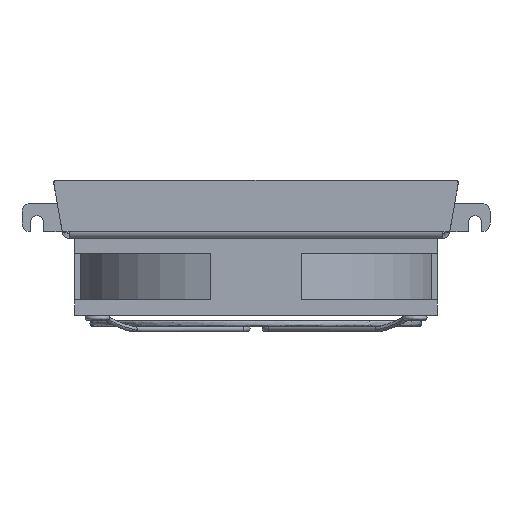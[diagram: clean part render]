
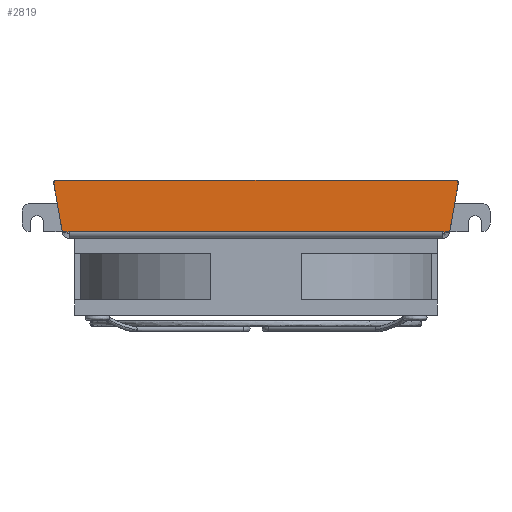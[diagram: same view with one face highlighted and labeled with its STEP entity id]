
A CAD part, front view. The second image highlights one B-rep face of the part: STEP entity #2819.
In plain terms, the highlighted planar face has unit normal (0, -1, 0).
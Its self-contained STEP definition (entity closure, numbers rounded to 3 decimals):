
#11 = CARTESIAN_POINT ( 'NONE',  ( -61.871, -134., 0.75 ) ) ;
#12 = DIRECTION ( 'NONE',  ( -1., 0., 0. ) ) ;
#213 = CARTESIAN_POINT ( 'NONE',  ( -65.957, -134., 16.727 ) ) ;
#217 = DIRECTION ( 'NONE',  ( 0., 0., 1. ) ) ;
#310 = DIRECTION ( 'NONE',  ( 0., -1., 0. ) ) ;
#370 = DIRECTION ( 'NONE',  ( 0.174, 0., 0.985 ) ) ;
#417 = CARTESIAN_POINT ( 'NONE',  ( 61.871, -134., 0.75 ) ) ;
#419 = DIRECTION ( 'NONE',  ( 1., 0., 0. ) ) ;
#488 = CARTESIAN_POINT ( 'NONE',  ( 64.155, -134., 0.75 ) ) ;
#1529 = CARTESIAN_POINT ( 'NONE',  ( 66.942, -134., 16.553 ) ) ;
#1652 = CARTESIAN_POINT ( 'NONE',  ( 64.155, -134., 0.75 ) ) ;
#1719 = DIRECTION ( 'NONE',  ( 0., 0., 1. ) ) ;
#1730 = CARTESIAN_POINT ( 'NONE',  ( -66.942, -134., 16.553 ) ) ;
#1832 = VERTEX_POINT ( 'NONE', #1652 ) ;
#2137 = VERTEX_POINT ( 'NONE', #1529 ) ;
#2186 = CARTESIAN_POINT ( 'NONE',  ( 65.957, -134., 17.727 ) ) ;
#2251 = CARTESIAN_POINT ( 'NONE',  ( -61.871, -134., 0.75 ) ) ;
#2316 = VERTEX_POINT ( 'NONE', #1730 ) ;
#2405 = VERTEX_POINT ( 'NONE', #2614 ) ;
#2435 = CARTESIAN_POINT ( 'NONE',  ( 61.871, -134., 0. ) ) ;
#2530 = PLANE ( 'NONE',  #5775 ) ;
#2565 = VERTEX_POINT ( 'NONE', #2186 ) ;
#2614 = CARTESIAN_POINT ( 'NONE',  ( -64.155, -134., 0.75 ) ) ;
#2686 = DIRECTION ( 'NONE',  ( 0., 1., 0. ) ) ;
#2689 = VERTEX_POINT ( 'NONE', #2251 ) ;
#2819 = ADVANCED_FACE ( 'NONE', ( #6139 ), #2530, .F. ) ;
#3576 = CARTESIAN_POINT ( 'NONE',  ( -65.957, -134., 17.727 ) ) ;
#3717 = CARTESIAN_POINT ( 'NONE',  ( 61.871, -134., 0.75 ) ) ;
#3937 = DIRECTION ( 'NONE',  ( -1., 0., 0. ) ) ;
#3943 = CARTESIAN_POINT ( 'NONE',  ( -61.871, -134., 17.727 ) ) ;
#4283 = DIRECTION ( 'NONE',  ( -1., 0., 0. ) ) ;
#4297 = CARTESIAN_POINT ( 'NONE',  ( -64.155, -134., 0.75 ) ) ;
#4313 = CARTESIAN_POINT ( 'NONE',  ( 61.871, -134., 0.75 ) ) ;
#4322 = DIRECTION ( 'NONE',  ( -0.174, 0., 0.985 ) ) ;
#4698 = VECTOR ( 'NONE', #4322, 1000. ) ;
#4700 = LINE ( 'NONE', #488, #5098 ) ;
#4717 = VECTOR ( 'NONE', #12, 1000. ) ;
#4733 = VECTOR ( 'NONE', #4283, 1000. ) ;
#4737 = LINE ( 'NONE', #4297, #4698 ) ;
#4878 = LINE ( 'NONE', #3943, #4995 ) ;
#4995 = VECTOR ( 'NONE', #3937, 1000. ) ;
#5098 = VECTOR ( 'NONE', #370, 1000. ) ;
#5105 = LINE ( 'NONE', #417, #5107 ) ;
#5106 = CIRCLE ( 'NONE', #8959, 1. ) ;
#5107 = VECTOR ( 'NONE', #419, 1000. ) ;
#5115 = CIRCLE ( 'NONE', #8976, 1. ) ;
#5217 = LINE ( 'NONE', #11, #4717 ) ;
#5223 = LINE ( 'NONE', #4313, #4733 ) ;
#5530 = EDGE_CURVE ( 'NONE', #2689, #2405, #5217, .T. ) ;
#5557 = EDGE_CURVE ( 'NONE', #8356, #1832, #5105, .T. ) ;
#5569 = EDGE_CURVE ( 'NONE', #8344, #2316, #5106, .T. ) ;
#5606 = EDGE_CURVE ( 'NONE', #1832, #2137, #4700, .T. ) ;
#5660 = EDGE_CURVE ( 'NONE', #2137, #2565, #5115, .T. ) ;
#5681 = EDGE_CURVE ( 'NONE', #2565, #8344, #4878, .T. ) ;
#5733 = EDGE_CURVE ( 'NONE', #8356, #2689, #5223, .T. ) ;
#5737 = EDGE_CURVE ( 'NONE', #2405, #2316, #4737, .T. ) ;
#5775 = AXIS2_PLACEMENT_3D ( 'NONE', #2435, #2686, #1719 ) ;
#6139 = FACE_OUTER_BOUND ( 'NONE', #6835, .T. ) ;
#6298 = DIRECTION ( 'NONE',  ( 0., 0., 1. ) ) ;
#6312 = DIRECTION ( 'NONE',  ( 0., -1., 0. ) ) ;
#6319 = CARTESIAN_POINT ( 'NONE',  ( 65.957, -134., 16.727 ) ) ;
#6835 = EDGE_LOOP ( 'NONE', ( #8099, #8396, #8112, #8116, #8085, #8078, #8084, #8102 ) ) ;
#8078 = ORIENTED_EDGE ( 'NONE', *, *, #5530, .F. ) ;
#8084 = ORIENTED_EDGE ( 'NONE', *, *, #5733, .F. ) ;
#8085 = ORIENTED_EDGE ( 'NONE', *, *, #5737, .F. ) ;
#8099 = ORIENTED_EDGE ( 'NONE', *, *, #5606, .T. ) ;
#8102 = ORIENTED_EDGE ( 'NONE', *, *, #5557, .T. ) ;
#8112 = ORIENTED_EDGE ( 'NONE', *, *, #5681, .T. ) ;
#8116 = ORIENTED_EDGE ( 'NONE', *, *, #5569, .T. ) ;
#8344 = VERTEX_POINT ( 'NONE', #3576 ) ;
#8356 = VERTEX_POINT ( 'NONE', #3717 ) ;
#8396 = ORIENTED_EDGE ( 'NONE', *, *, #5660, .T. ) ;
#8959 = AXIS2_PLACEMENT_3D ( 'NONE', #213, #310, #217 ) ;
#8976 = AXIS2_PLACEMENT_3D ( 'NONE', #6319, #6312, #6298 ) ;
